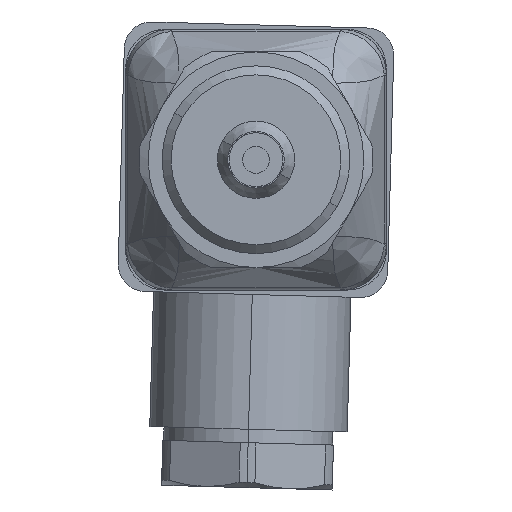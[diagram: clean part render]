
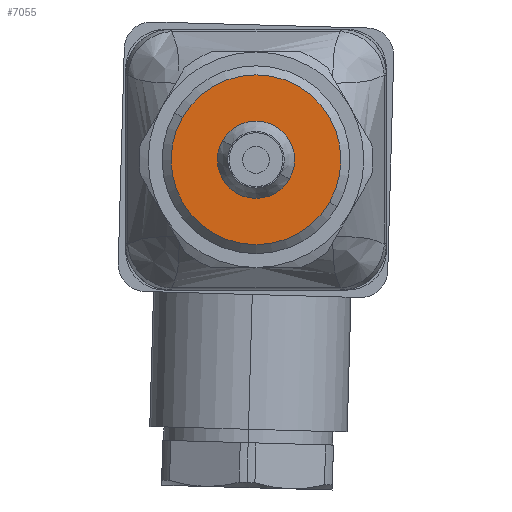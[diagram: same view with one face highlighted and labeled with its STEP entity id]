
A CAD part, left-side view. The second image highlights one B-rep face of the part: STEP entity #7055.
In plain terms, the highlighted planar face has unit normal (-1, 0, 0).
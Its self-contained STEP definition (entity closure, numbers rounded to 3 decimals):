
#651 = VERTEX_POINT ( 'NONE', #7817 ) ;
#730 = VERTEX_POINT ( 'NONE', #965 ) ;
#965 = CARTESIAN_POINT ( 'NONE',  ( -79.205, -34.451, 37.156 ) ) ;
#1383 = AXIS2_PLACEMENT_3D ( 'NONE', #7701, #2134, #3259 ) ;
#1565 = ORIENTED_EDGE ( 'NONE', *, *, #4145, .T. ) ;
#1875 = DIRECTION ( 'NONE',  ( -1., 0., 0. ) ) ;
#2134 = DIRECTION ( 'NONE',  ( -1., 0., 0. ) ) ;
#2147 = CARTESIAN_POINT ( 'NONE',  ( -79.205, -46.359, 30.281 ) ) ;
#2631 = PLANE ( 'NONE',  #7903 ) ;
#2718 = AXIS2_PLACEMENT_3D ( 'NONE', #3441, #7742, #6524 ) ;
#2879 = EDGE_CURVE ( 'NONE', #7165, #3581, #3366, .T. ) ;
#3005 = CIRCLE ( 'NONE', #3965, 9.45 ) ;
#3145 = DIRECTION ( 'NONE',  ( -1., 0., 0. ) ) ;
#3259 = DIRECTION ( 'NONE',  ( 0., -0.866, -0.5 ) ) ;
#3366 = CIRCLE ( 'NONE', #1383, 4.3 ) ;
#3441 = CARTESIAN_POINT ( 'NONE',  ( -79.205, -42.635, 32.431 ) ) ;
#3581 = VERTEX_POINT ( 'NONE', #5149 ) ;
#3965 = AXIS2_PLACEMENT_3D ( 'NONE', #4437, #3145, #6656 ) ;
#4145 = EDGE_CURVE ( 'NONE', #730, #651, #6395, .T. ) ;
#4336 = EDGE_LOOP ( 'NONE', ( #6781, #1565 ) ) ;
#4437 = CARTESIAN_POINT ( 'NONE',  ( -79.205, -42.635, 32.431 ) ) ;
#4505 = EDGE_CURVE ( 'NONE', #3581, #7165, #6521, .T. ) ;
#4803 = ORIENTED_EDGE ( 'NONE', *, *, #4505, .F. ) ;
#4828 = FACE_BOUND ( 'NONE', #6394, .T. ) ;
#5122 = CARTESIAN_POINT ( 'NONE',  ( -79.205, -42.635, 32.431 ) ) ;
#5149 = CARTESIAN_POINT ( 'NONE',  ( -79.205, -38.911, 34.581 ) ) ;
#5268 = AXIS2_PLACEMENT_3D ( 'NONE', #5636, #1875, #8114 ) ;
#5636 = CARTESIAN_POINT ( 'NONE',  ( -79.205, -42.635, 32.431 ) ) ;
#5932 = FACE_OUTER_BOUND ( 'NONE', #4336, .T. ) ;
#6078 = ORIENTED_EDGE ( 'NONE', *, *, #2879, .F. ) ;
#6394 = EDGE_LOOP ( 'NONE', ( #6078, #4803 ) ) ;
#6395 = CIRCLE ( 'NONE', #5268, 9.45 ) ;
#6471 = DIRECTION ( 'NONE',  ( 1., 0., 0. ) ) ;
#6521 = CIRCLE ( 'NONE', #2718, 4.3 ) ;
#6524 = DIRECTION ( 'NONE',  ( 0., -0.866, -0.5 ) ) ;
#6656 = DIRECTION ( 'NONE',  ( 0., -0.866, -0.5 ) ) ;
#6781 = ORIENTED_EDGE ( 'NONE', *, *, #8069, .T. ) ;
#7041 = DIRECTION ( 'NONE',  ( 0., -0.866, -0.5 ) ) ;
#7055 = ADVANCED_FACE ( 'NONE', ( #5932, #4828 ), #2631, .F. ) ;
#7165 = VERTEX_POINT ( 'NONE', #2147 ) ;
#7701 = CARTESIAN_POINT ( 'NONE',  ( -79.205, -42.635, 32.431 ) ) ;
#7742 = DIRECTION ( 'NONE',  ( -1., 0., 0. ) ) ;
#7817 = CARTESIAN_POINT ( 'NONE',  ( -79.205, -50.819, 27.706 ) ) ;
#7903 = AXIS2_PLACEMENT_3D ( 'NONE', #5122, #6471, #7041 ) ;
#8069 = EDGE_CURVE ( 'NONE', #651, #730, #3005, .T. ) ;
#8114 = DIRECTION ( 'NONE',  ( 0., -0.866, -0.5 ) ) ;
